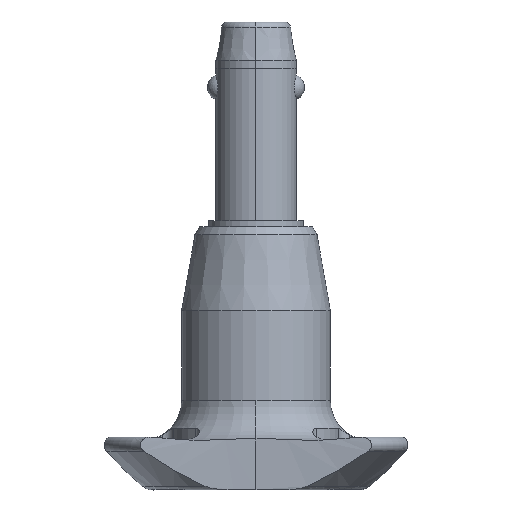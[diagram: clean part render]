
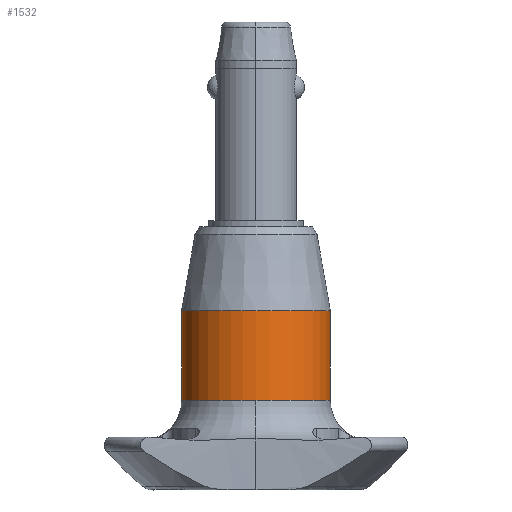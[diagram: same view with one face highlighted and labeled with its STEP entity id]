
A CAD part, left-side view. The second image highlights one B-rep face of the part: STEP entity #1532.
In plain terms, the highlighted cylindrical face has radius 9.2 mm (diameter 18.4 mm), a partial arc.
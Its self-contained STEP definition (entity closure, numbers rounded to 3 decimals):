
#122 = EDGE_CURVE ( 'NONE', #857, #1003, #666, .T. ) ;
#203 = DIRECTION ( 'NONE',  ( 0., 1., 0. ) ) ;
#239 = EDGE_LOOP ( 'NONE', ( #1206, #456, #415, #635, #1986 ) ) ;
#412 = EDGE_CURVE ( 'NONE', #873, #703, #1318, .T. ) ;
#415 = ORIENTED_EDGE ( 'NONE', *, *, #412, .T. ) ;
#425 = EDGE_CURVE ( 'NONE', #1003, #703, #581, .T. ) ;
#456 = ORIENTED_EDGE ( 'NONE', *, *, #2248, .T. ) ;
#505 = CARTESIAN_POINT ( 'NONE',  ( 0., 9.2, -37.2 ) ) ;
#581 = CIRCLE ( 'NONE', #1086, 9.2 ) ;
#635 = ORIENTED_EDGE ( 'NONE', *, *, #425, .F. ) ;
#666 = CIRCLE ( 'NONE', #1128, 9.2 ) ;
#675 = AXIS2_PLACEMENT_3D ( 'NONE', #1874, #1661, #2537 ) ;
#703 = VERTEX_POINT ( 'NONE', #1014 ) ;
#857 = VERTEX_POINT ( 'NONE', #1306 ) ;
#873 = VERTEX_POINT ( 'NONE', #2380 ) ;
#914 = VECTOR ( 'NONE', #1764, 1000. ) ;
#933 = CARTESIAN_POINT ( 'NONE',  ( 0., -9.2, -37.2 ) ) ;
#1003 = VERTEX_POINT ( 'NONE', #1811 ) ;
#1014 = CARTESIAN_POINT ( 'NONE',  ( 0., 9.2, -37.2 ) ) ;
#1086 = AXIS2_PLACEMENT_3D ( 'NONE', #1850, #1389, #2429 ) ;
#1128 = AXIS2_PLACEMENT_3D ( 'NONE', #2535, #1856, #2056 ) ;
#1206 = ORIENTED_EDGE ( 'NONE', *, *, #2305, .F. ) ;
#1227 = FACE_OUTER_BOUND ( 'NONE', #239, .T. ) ;
#1245 = CYLINDRICAL_SURFACE ( 'NONE', #675, 9.2 ) ;
#1306 = CARTESIAN_POINT ( 'NONE',  ( 0., -9.2, -37.2 ) ) ;
#1318 = LINE ( 'NONE', #505, #2836 ) ;
#1389 = DIRECTION ( 'NONE',  ( 0., 0., -1. ) ) ;
#1395 = LINE ( 'NONE', #933, #914 ) ;
#1498 = CARTESIAN_POINT ( 'NONE',  ( 0., 0., -26.1 ) ) ;
#1532 = ADVANCED_FACE ( 'NONE', ( #1227 ), #1245, .T. ) ;
#1661 = DIRECTION ( 'NONE',  ( 0., 0., -1. ) ) ;
#1764 = DIRECTION ( 'NONE',  ( 0., 0., -1. ) ) ;
#1811 = CARTESIAN_POINT ( 'NONE',  ( -9.2, 0., -37.2 ) ) ;
#1850 = CARTESIAN_POINT ( 'NONE',  ( 0., 0., -37.2 ) ) ;
#1856 = DIRECTION ( 'NONE',  ( 0., 0., -1. ) ) ;
#1874 = CARTESIAN_POINT ( 'NONE',  ( 0., 0., -37.2 ) ) ;
#1986 = ORIENTED_EDGE ( 'NONE', *, *, #122, .F. ) ;
#2056 = DIRECTION ( 'NONE',  ( 0., 1., 0. ) ) ;
#2239 = CARTESIAN_POINT ( 'NONE',  ( 0., -9.2, -26.1 ) ) ;
#2248 = EDGE_CURVE ( 'NONE', #2357, #873, #2570, .T. ) ;
#2305 = EDGE_CURVE ( 'NONE', #2357, #857, #1395, .T. ) ;
#2357 = VERTEX_POINT ( 'NONE', #2239 ) ;
#2380 = CARTESIAN_POINT ( 'NONE',  ( 0., 9.2, -26.1 ) ) ;
#2429 = DIRECTION ( 'NONE',  ( 0., 1., 0. ) ) ;
#2498 = DIRECTION ( 'NONE',  ( 0., 0., -1. ) ) ;
#2535 = CARTESIAN_POINT ( 'NONE',  ( 0., 0., -37.2 ) ) ;
#2537 = DIRECTION ( 'NONE',  ( 0., 1., 0. ) ) ;
#2570 = CIRCLE ( 'NONE', #2656, 9.2 ) ;
#2656 = AXIS2_PLACEMENT_3D ( 'NONE', #1498, #2795, #203 ) ;
#2795 = DIRECTION ( 'NONE',  ( 0., 0., -1. ) ) ;
#2836 = VECTOR ( 'NONE', #2498, 1000. ) ;
